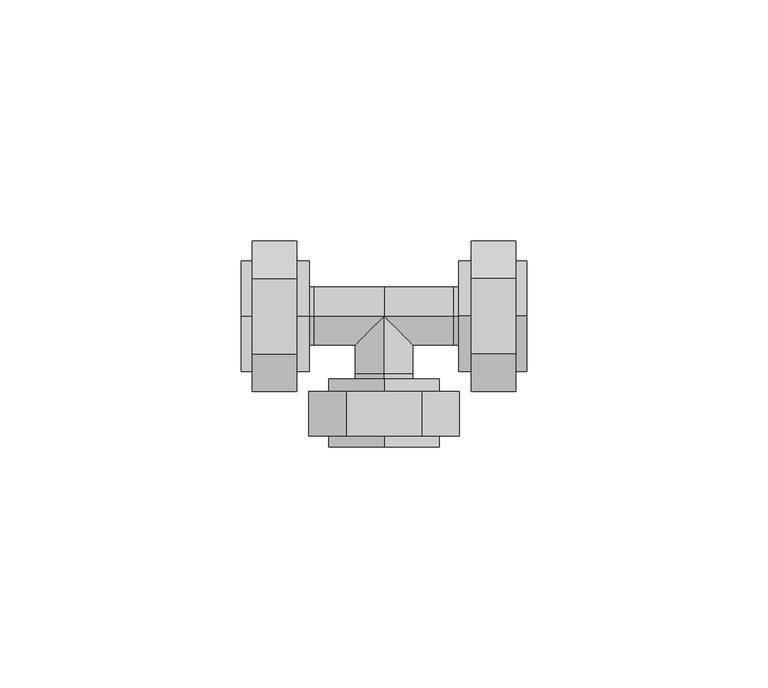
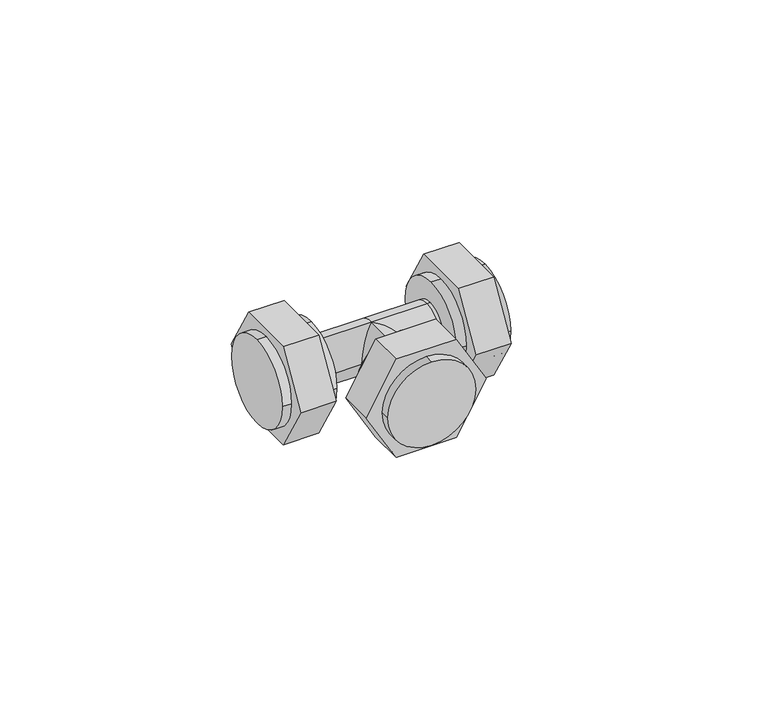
"""IFC4 building model written with IfcOpenShell, lengths in millimetres: pipe fitting geometry, HC-Kształtka-ParaForma-Tweetop-PERT-Trójnik : Tweetop."""

from ifc_helpers import new_model, si_unit, frame, origin, place, context, project, spatial, circle_curve, ellipse_curve, source, transform, mapped, element, save
from ifc_brep_helpers import plane_surface, cylinder_surface, advanced_brep


def pipe_fitting_dd8a0c7b(model_context):
    return source(origin(), model_context, "Body", "AdvancedBrep", [
        advanced_brep(
        [(29.6, 0.0, -11.45), (29.6, -11.45, 0.0), (27.3, -11.45, 0.0), (27.3, 0.0, -11.45), (15.5, -11.45, 0.0), (15.5, 0.0, -11.45), (18.1, 0.0, -11.45), (18.1, -11.45, 0.0), (15.5, 0.0, 11.45), (15.5, 11.45, 0.0), (18.1, 7.7942286, -13.5), (18.1, -7.7942286, -13.5), (18.1, -15.5884573, 0.0), (18.1, -7.7942286, 13.5), (18.1, 7.7942286, 13.5), (18.1, 15.5884573, 0.0), (18.1, 0.0, 11.45), (18.1, 11.45, 0.0), (27.3, 7.7942286, -13.5), (27.3, 15.5884573, 0.0), (27.3, 7.7942286, 13.5), (27.3, -7.7942286, 13.5), (27.3, -15.5884573, 0.0), (27.3, -7.7942286, -13.5), (27.3, 0.0, 11.45), (27.3, 11.45, 0.0), (29.6, 0.0, 11.45), (29.6, 11.45, 0.0)],
        [
            (0, 1, circle_curve(frame((29.6, 0.0, 0.0), z_axis=(-1.0, 0.0, 0.0), x_axis=(0.0, 1.0000000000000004, 0.0)), 11.45)),
            (1, 2),
            (2, 3, circle_curve(frame((27.3, 0.0, 0.0), z_axis=(1.0, 0.0, 0.0), x_axis=(0.0, 1.0000000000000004, 0.0)), 11.45)),
            (3, 0),
            (4, 5, circle_curve(frame((15.5, 0.0, 0.0), z_axis=(1.0, 0.0, 0.0), x_axis=(0.0, 1.0000000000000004, 0.0)), 11.45)),
            (5, 6),
            (6, 7, circle_curve(frame((18.1, 0.0, 0.0), z_axis=(-1.0, 0.0, 0.0), x_axis=(0.0, 1.0000000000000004, 0.0)), 11.45)),
            (7, 4),
            (8, 9, circle_curve(frame((15.5, 0.0, 0.0), z_axis=(-1.0, 0.0, 0.0), x_axis=(0.0, 1.0000000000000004, 0.0)), 11.45)),
            (9, 5, circle_curve(frame((15.5, 0.0, 0.0), z_axis=(-1.0, 0.0, 0.0), x_axis=(0.0, 1.0000000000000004, 0.0)), 11.45)),
            (4, 8, circle_curve(frame((15.5, 0.0, 0.0), z_axis=(-1.0, 0.0, 0.0), x_axis=(0.0, 1.0000000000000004, 0.0)), 11.45)),
            (10, 11),
            (11, 12),
            (12, 13),
            (13, 14),
            (14, 15),
            (15, 10),
            (16, 7, circle_curve(frame((18.1, 0.0, 0.0), z_axis=(1.0, 0.0, 0.0), x_axis=(0.0, 1.0000000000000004, 0.0)), 11.45)),
            (6, 17, circle_curve(frame((18.1, 0.0, 0.0), z_axis=(1.0, 0.0, 0.0), x_axis=(0.0, 1.0000000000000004, 0.0)), 11.45)),
            (17, 16, circle_curve(frame((18.1, 0.0, 0.0), z_axis=(1.0, 0.0, 0.0), x_axis=(0.0, 1.0000000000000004, 0.0)), 11.45)),
            (18, 19),
            (19, 20),
            (20, 21),
            (21, 22),
            (22, 23),
            (23, 18),
            (2, 24, circle_curve(frame((27.3, 0.0, 0.0), z_axis=(-1.0, 0.0, 0.0), x_axis=(0.0, 1.0000000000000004, 0.0)), 11.45)),
            (24, 25, circle_curve(frame((27.3, 0.0, 0.0), z_axis=(-1.0, 0.0, 0.0), x_axis=(0.0, 1.0000000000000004, 0.0)), 11.45)),
            (25, 3, circle_curve(frame((27.3, 0.0, 0.0), z_axis=(-1.0, 0.0, 0.0), x_axis=(0.0, 1.0000000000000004, 0.0)), 11.45)),
            (10, 18),
            (23, 11),
            (22, 12),
            (21, 13),
            (20, 14),
            (19, 15),
            (16, 8),
            (1, 26, circle_curve(frame((29.6, 0.0, 0.0), z_axis=(-1.0, 0.0, 0.0), x_axis=(0.0, 1.0000000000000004, 0.0)), 11.45)),
            (26, 24),
            (27, 0, circle_curve(frame((29.6, 0.0, 0.0), z_axis=(-1.0, 0.0, 0.0), x_axis=(0.0, 1.0000000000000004, 0.0)), 11.45)),
            (25, 27),
            (9, 17),
            (26, 27, circle_curve(frame((29.6, 0.0, 0.0), z_axis=(-1.0, 0.0, 0.0), x_axis=(0.0, 1.0000000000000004, 0.0)), 11.45)),
        ],
        [
            cylinder_surface(frame((15.5, 0.0, 0.0), z_axis=(-1.0000000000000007, 0.0, 0.0), x_axis=(0.0, 1.0000000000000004, 0.0)), 11.45),
            plane_surface(frame((15.5, 0.0, 0.0), z_axis=(-1.0, 0.0, 0.0), x_axis=(0.0, 0.0, 1.0))),
            plane_surface(frame((18.1, 0.0, 0.0), z_axis=(-1.0, 0.0, 0.0), x_axis=(0.0, 0.0, 1.0))),
            plane_surface(frame((27.3, 0.0, 0.0), z_axis=(1.0, 0.0, 0.0), x_axis=(0.0, 0.0, 1.0))),
            plane_surface(frame((18.1, 7.7942286, -13.5), z_axis=(0.0, 0.0, -1.0), x_axis=(1.0, 0.0, 0.0))),
            plane_surface(frame((18.1, -7.7942286, -13.5), z_axis=(0.0, -0.866025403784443, -0.4999999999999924), x_axis=(1.0, 0.0, 0.0))),
            plane_surface(frame((18.1, -15.5884573, 0.0), z_axis=(0.0, -0.8660254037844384, 0.5000000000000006), x_axis=(1.0, 0.0, 0.0))),
            plane_surface(frame((18.1, -7.7942286, 13.5), z_axis=(0.0, 0.0, 1.0), x_axis=(1.0, 0.0, 0.0))),
            plane_surface(frame((18.1, 7.7942286, 13.5), z_axis=(0.0, 0.8660254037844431, 0.4999999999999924), x_axis=(1.0, 0.0, 0.0))),
            plane_surface(frame((18.1, 15.5884573, 0.0), z_axis=(0.0, 0.866025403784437, -0.5000000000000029), x_axis=(1.0, 0.0, 0.0))),
            plane_surface(frame((29.6, 0.0, 0.0), z_axis=(1.0, 0.0, 0.0), x_axis=(0.0, 0.0, 1.0))),
        ],
        [
            (0, [[1, 2, 3, 4]]),
            (0, [[5, 6, 7, 8]]),
            (1, [[9, 10, -5, 11]]),
            (2, [[12, 13, 14, 15, 16, 17], [18, -7, 19, 20]]),
            (3, [[21, 22, 23, 24, 25, 26], [27, 28, 29, -3]]),
            (4, [[-12, 30, -26, 31]]),
            (5, [[-13, -31, -25, 32]]),
            (6, [[-14, -32, -24, 33]]),
            (7, [[-15, -33, -23, 34]]),
            (8, [[-16, -34, -22, 35]]),
            (9, [[-17, -35, -21, -30]]),
            (0, [[-11, -8, -18, 36]]),
            (0, [[37, 38, -27, -2]]),
            (0, [[39, -4, -29, 40]]),
            (0, [[-10, 41, -19, -6]]),
            (0, [[42, -40, -28, -38]]),
            (0, [[-9, -36, -20, -41]]),
            (10, [[-37, -1, -39, -42]]),
        ],
    ),
        advanced_brep(
        [(0.0, -27.1, -11.45), (-11.45, -27.1, 0.0), (-11.45, -24.8, 0.0), (0.0, -24.8, -11.45), (-11.45, -13.0, 0.0), (0.0, -13.0, -11.45), (0.0, -15.6, -11.45), (-11.45, -15.6, 0.0), (0.0, -13.0, 11.45), (11.45, -13.0, 0.0), (7.7942286, -15.6, -13.5), (-7.7942286, -15.6, -13.5), (-15.5884573, -15.6, 0.0), (-7.7942286, -15.6, 13.5), (7.7942286, -15.6, 13.5), (15.5884573, -15.6, 0.0), (0.0, -15.6, 11.45), (11.45, -15.6, 0.0), (7.7942286, -24.8, -13.5), (15.5884573, -24.8, 0.0), (7.7942286, -24.8, 13.5), (-7.7942286, -24.8, 13.5), (-15.5884573, -24.8, 0.0), (-7.7942286, -24.8, -13.5), (0.0, -24.8, 11.45), (11.45, -24.8, 0.0), (0.0, -27.1, 11.45), (11.45, -27.1, 0.0)],
        [
            (0, 1, circle_curve(frame((0.0, -27.1, 0.0), z_axis=(0.0, 1.0, 0.0), x_axis=(1.0000000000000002, 0.0, 0.0)), 11.45)),
            (1, 2),
            (2, 3, circle_curve(frame((0.0, -24.8, 0.0), z_axis=(0.0, -1.0, 0.0), x_axis=(1.0000000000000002, 0.0, 0.0)), 11.45)),
            (3, 0),
            (4, 5, circle_curve(frame((0.0, -13.0, 0.0), z_axis=(0.0, -1.0, 0.0), x_axis=(1.0000000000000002, 0.0, 0.0)), 11.45)),
            (5, 6),
            (6, 7, circle_curve(frame((0.0, -15.6, 0.0), z_axis=(0.0, 1.0, 0.0), x_axis=(1.0000000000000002, 0.0, 0.0)), 11.45)),
            (7, 4),
            (8, 9, circle_curve(frame((0.0, -13.0, 0.0), z_axis=(0.0, 1.0, 0.0), x_axis=(1.0000000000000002, 0.0, 0.0)), 11.45)),
            (9, 5, circle_curve(frame((0.0, -13.0, 0.0), z_axis=(0.0, 1.0, 0.0), x_axis=(1.0000000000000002, 0.0, 0.0)), 11.45)),
            (4, 8, circle_curve(frame((0.0, -13.0, 0.0), z_axis=(0.0, 1.0, 0.0), x_axis=(1.0000000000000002, 0.0, 0.0)), 11.45)),
            (10, 11),
            (11, 12),
            (12, 13),
            (13, 14),
            (14, 15),
            (15, 10),
            (16, 7, circle_curve(frame((0.0, -15.6, 0.0), z_axis=(0.0, -1.0, 0.0), x_axis=(1.0000000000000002, 0.0, 0.0)), 11.45)),
            (6, 17, circle_curve(frame((0.0, -15.6, 0.0), z_axis=(0.0, -1.0, 0.0), x_axis=(1.0000000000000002, 0.0, 0.0)), 11.45)),
            (17, 16, circle_curve(frame((0.0, -15.6, 0.0), z_axis=(0.0, -1.0, 0.0), x_axis=(1.0000000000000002, 0.0, 0.0)), 11.45)),
            (18, 19),
            (19, 20),
            (20, 21),
            (21, 22),
            (22, 23),
            (23, 18),
            (2, 24, circle_curve(frame((0.0, -24.8, 0.0), z_axis=(0.0, 1.0, 0.0), x_axis=(1.0000000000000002, 0.0, 0.0)), 11.45)),
            (24, 25, circle_curve(frame((0.0, -24.8, 0.0), z_axis=(0.0, 1.0, 0.0), x_axis=(1.0000000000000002, 0.0, 0.0)), 11.45)),
            (25, 3, circle_curve(frame((0.0, -24.8, 0.0), z_axis=(0.0, 1.0, 0.0), x_axis=(1.0000000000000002, 0.0, 0.0)), 11.45)),
            (10, 18),
            (23, 11),
            (22, 12),
            (21, 13),
            (20, 14),
            (19, 15),
            (16, 8),
            (1, 26, circle_curve(frame((0.0, -27.1, 0.0), z_axis=(0.0, 1.0, 0.0), x_axis=(1.0000000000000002, 0.0, 0.0)), 11.45)),
            (26, 24),
            (27, 0, circle_curve(frame((0.0, -27.1, 0.0), z_axis=(0.0, 1.0, 0.0), x_axis=(1.0000000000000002, 0.0, 0.0)), 11.45)),
            (25, 27),
            (9, 17),
            (26, 27, circle_curve(frame((0.0, -27.1, 0.0), z_axis=(0.0, 1.0, 0.0), x_axis=(1.0000000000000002, 0.0, 0.0)), 11.45)),
        ],
        [
            cylinder_surface(frame((0.0, -13.0, 0.0), z_axis=(0.0, 1.0000000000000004, 0.0), x_axis=(1.0000000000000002, 0.0, 0.0)), 11.45),
            plane_surface(frame((0.0, -13.0, 0.0), z_axis=(0.0, 1.0, 0.0), x_axis=(0.0, 0.0, 1.0))),
            plane_surface(frame((0.0, -15.6, 0.0), z_axis=(0.0, 1.0, 0.0), x_axis=(0.0, 0.0, 1.0))),
            plane_surface(frame((0.0, -24.8, 0.0), z_axis=(0.0, -1.0, 0.0), x_axis=(0.0, 0.0, 1.0))),
            plane_surface(frame((7.7942286, -15.6, -13.5), z_axis=(0.0, 0.0, -1.0), x_axis=(0.0, -1.0, 0.0))),
            plane_surface(frame((-7.7942286, -15.6, -13.5), z_axis=(-0.8660254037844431, 0.0, -0.49999999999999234), x_axis=(0.0, -1.0, 0.0))),
            plane_surface(frame((-15.5884573, -15.6, 0.0), z_axis=(-0.8660254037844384, 0.0, 0.5000000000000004), x_axis=(0.0, -1.0, 0.0))),
            plane_surface(frame((-7.7942286, -15.6, 13.5), z_axis=(0.0, 0.0, 1.0), x_axis=(0.0, -1.0, 0.0))),
            plane_surface(frame((7.7942286, -15.6, 13.5), z_axis=(0.8660254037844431, 0.0, 0.4999999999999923), x_axis=(0.0, -1.0, 0.0))),
            plane_surface(frame((15.5884573, -15.6, 0.0), z_axis=(0.866025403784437, 0.0, -0.5000000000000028), x_axis=(0.0, -1.0, 0.0))),
            plane_surface(frame((0.0, -27.1, 0.0), z_axis=(0.0, -1.0, 0.0), x_axis=(0.0, 0.0, 1.0))),
        ],
        [
            (0, [[1, 2, 3, 4]]),
            (0, [[5, 6, 7, 8]]),
            (1, [[9, 10, -5, 11]]),
            (2, [[12, 13, 14, 15, 16, 17], [18, -7, 19, 20]]),
            (3, [[21, 22, 23, 24, 25, 26], [27, 28, 29, -3]]),
            (4, [[-12, 30, -26, 31]]),
            (5, [[-13, -31, -25, 32]]),
            (6, [[-14, -32, -24, 33]]),
            (7, [[-15, -33, -23, 34]]),
            (8, [[-16, -34, -22, 35]]),
            (9, [[-17, -35, -21, -30]]),
            (0, [[-11, -8, -18, 36]]),
            (0, [[37, 38, -27, -2]]),
            (0, [[39, -4, -29, 40]]),
            (0, [[-10, 41, -19, -6]]),
            (0, [[42, -40, -28, -38]]),
            (0, [[-9, -36, -20, -41]]),
            (10, [[-37, -1, -39, -42]]),
        ],
    ),
        advanced_brep(
        [(-29.6, 0.0, -11.45), (-29.6, 11.45, 0.0), (-27.3, 11.45, 0.0), (-27.3, 0.0, -11.45), (-15.5, 11.45, 0.0), (-15.5, 0.0, -11.45), (-18.1, 0.0, -11.45), (-18.1, 11.45, 0.0), (-15.5, 0.0, 11.45), (-15.5, -11.45, 0.0), (-18.1, -7.7942286, -13.5), (-18.1, 7.7942286, -13.5), (-18.1, 15.5884573, 0.0), (-18.1, 7.7942286, 13.5), (-18.1, -7.7942286, 13.5), (-18.1, -15.5884573, 0.0), (-18.1, 0.0, 11.45), (-18.1, -11.45, 0.0), (-27.3, -7.7942286, -13.5), (-27.3, -15.5884573, 0.0), (-27.3, -7.7942286, 13.5), (-27.3, 7.7942286, 13.5), (-27.3, 15.5884573, 0.0), (-27.3, 7.7942286, -13.5), (-27.3, 0.0, 11.45), (-27.3, -11.45, 0.0), (-29.6, 0.0, 11.45), (-29.6, -11.45, 0.0)],
        [
            (0, 1, circle_curve(frame((-29.6, 0.0, 0.0), z_axis=(1.0, 0.0, 0.0), x_axis=(0.0, -1.0, 0.0)), 11.45)),
            (1, 2),
            (2, 3, circle_curve(frame((-27.3, 0.0, 0.0), z_axis=(-1.0, 0.0, 0.0), x_axis=(0.0, -1.0, 0.0)), 11.45)),
            (3, 0),
            (4, 5, circle_curve(frame((-15.5, 0.0, 0.0), z_axis=(-1.0, 0.0, 0.0), x_axis=(0.0, -1.0, 0.0)), 11.45)),
            (5, 6),
            (6, 7, circle_curve(frame((-18.1, 0.0, 0.0), z_axis=(1.0, 0.0, 0.0), x_axis=(0.0, -1.0, 0.0)), 11.45)),
            (7, 4),
            (8, 9, circle_curve(frame((-15.5, 0.0, 0.0), z_axis=(1.0, 0.0, 0.0), x_axis=(0.0, -1.0, 0.0)), 11.45)),
            (9, 5, circle_curve(frame((-15.5, 0.0, 0.0), z_axis=(1.0, 0.0, 0.0), x_axis=(0.0, -1.0, 0.0)), 11.45)),
            (4, 8, circle_curve(frame((-15.5, 0.0, 0.0), z_axis=(1.0, 0.0, 0.0), x_axis=(0.0, -1.0, 0.0)), 11.45)),
            (10, 11),
            (11, 12),
            (12, 13),
            (13, 14),
            (14, 15),
            (15, 10),
            (16, 7, circle_curve(frame((-18.1, 0.0, 0.0), z_axis=(-1.0, 0.0, 0.0), x_axis=(0.0, -1.0, 0.0)), 11.45)),
            (6, 17, circle_curve(frame((-18.1, 0.0, 0.0), z_axis=(-1.0, 0.0, 0.0), x_axis=(0.0, -1.0, 0.0)), 11.45)),
            (17, 16, circle_curve(frame((-18.1, 0.0, 0.0), z_axis=(-1.0, 0.0, 0.0), x_axis=(0.0, -1.0, 0.0)), 11.45)),
            (18, 19),
            (19, 20),
            (20, 21),
            (21, 22),
            (22, 23),
            (23, 18),
            (2, 24, circle_curve(frame((-27.3, 0.0, 0.0), z_axis=(1.0, 0.0, 0.0), x_axis=(0.0, -1.0, 0.0)), 11.45)),
            (24, 25, circle_curve(frame((-27.3, 0.0, 0.0), z_axis=(1.0, 0.0, 0.0), x_axis=(0.0, -1.0, 0.0)), 11.45)),
            (25, 3, circle_curve(frame((-27.3, 0.0, 0.0), z_axis=(1.0, 0.0, 0.0), x_axis=(0.0, -1.0, 0.0)), 11.45)),
            (10, 18),
            (23, 11),
            (22, 12),
            (21, 13),
            (20, 14),
            (19, 15),
            (16, 8),
            (1, 26, circle_curve(frame((-29.6, 0.0, 0.0), z_axis=(1.0, 0.0, 0.0), x_axis=(0.0, -1.0, 0.0)), 11.45)),
            (26, 24),
            (27, 0, circle_curve(frame((-29.6, 0.0, 0.0), z_axis=(1.0, 0.0, 0.0), x_axis=(0.0, -1.0, 0.0)), 11.45)),
            (25, 27),
            (9, 17),
            (26, 27, circle_curve(frame((-29.6, 0.0, 0.0), z_axis=(1.0, 0.0, 0.0), x_axis=(0.0, -1.0, 0.0)), 11.45)),
        ],
        [
            cylinder_surface(frame((-15.5, 0.0, 0.0), z_axis=(1.0, 0.0, 0.0), x_axis=(0.0, -1.0, 0.0)), 11.45),
            plane_surface(frame((-15.5, 0.0, 0.0), z_axis=(1.0, 0.0, 0.0), x_axis=(0.0, 0.0, 1.0))),
            plane_surface(frame((-18.1, 0.0, 0.0), z_axis=(1.0, 0.0, 0.0), x_axis=(0.0, 0.0, 1.0))),
            plane_surface(frame((-27.3, 0.0, 0.0), z_axis=(-1.0, 0.0, 0.0), x_axis=(0.0, 0.0, 1.0))),
            plane_surface(frame((-18.1, -7.7942286, -13.5), z_axis=(0.0, 0.0, -1.0), x_axis=(-1.0, 0.0, 0.0))),
            plane_surface(frame((-18.1, 7.7942286, -13.5), z_axis=(0.0, 0.8660254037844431, -0.4999999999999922), x_axis=(-1.0, 0.0, 0.0))),
            plane_surface(frame((-18.1, 15.5884573, 0.0), z_axis=(0.0, 0.8660254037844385, 0.5000000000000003), x_axis=(-1.0, 0.0, 0.0))),
            plane_surface(frame((-18.1, 7.7942286, 13.5), z_axis=(0.0, 0.0, 1.0), x_axis=(-1.0, 0.0, 0.0))),
            plane_surface(frame((-18.1, -7.7942286, 13.5), z_axis=(0.0, -0.8660254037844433, 0.4999999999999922), x_axis=(-1.0, 0.0, 0.0))),
            plane_surface(frame((-18.1, -15.5884573, 0.0), z_axis=(0.0, -0.8660254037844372, -0.5000000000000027), x_axis=(-1.0, 0.0, 0.0))),
            plane_surface(frame((-29.6, 0.0, 0.0), z_axis=(-1.0, 0.0, 0.0), x_axis=(0.0, 0.0, 1.0))),
        ],
        [
            (0, [[1, 2, 3, 4]]),
            (0, [[5, 6, 7, 8]]),
            (1, [[9, 10, -5, 11]]),
            (2, [[12, 13, 14, 15, 16, 17], [18, -7, 19, 20]]),
            (3, [[21, 22, 23, 24, 25, 26], [27, 28, 29, -3]]),
            (4, [[-12, 30, -26, 31]]),
            (5, [[-13, -31, -25, 32]]),
            (6, [[-14, -32, -24, 33]]),
            (7, [[-15, -33, -23, 34]]),
            (8, [[-16, -34, -22, 35]]),
            (9, [[-17, -35, -21, -30]]),
            (0, [[-11, -8, -18, 36]]),
            (0, [[37, 38, -27, -2]]),
            (0, [[39, -4, -29, 40]]),
            (0, [[-10, 41, -19, -6]]),
            (0, [[42, -40, -28, -38]]),
            (0, [[-9, -36, -20, -41]]),
            (10, [[-37, -1, -39, -42]]),
        ],
    ),
        advanced_brep(
        [(-15.5, 0.0, 6.0), (-15.5, 6.0, 0.0), (-15.5, 0.0, -6.0), (-15.5, -6.0, 0.0), (15.5, 0.0, 6.0), (15.5, -6.0, 0.0), (15.5, 0.0, -6.0), (15.5, 6.0, 0.0), (0.0, -13.0, 6.0), (-6.0, -13.0, 0.0), (0.0, -13.0, -6.0), (6.0, -13.0, 0.0), (-14.5, 0.0, 6.0), (0.0, 0.0, 6.0), (0.0, 6.0, 0.0), (-14.5, 6.0, 0.0), (0.0, 0.0, -6.0), (-14.5, 0.0, -6.0), (-6.0, -6.0, 0.0), (-14.5, -6.0, 0.0), (14.5, 6.0, 0.0), (14.5, 0.0, 6.0), (14.5, 0.0, -6.0), (14.5, -6.0, 0.0), (6.0, -6.0, 0.0), (6.0, -12.0, 0.0), (0.0, -12.0, 6.0), (0.0, -12.0, -6.0), (-6.0, -12.0, 0.0)],
        [
            (0, 1, circle_curve(frame((-15.5, 0.0, 0.0), z_axis=(-1.0, 0.0, 0.0), x_axis=(0.0, 1.0, 0.0)), 6.0)),
            (1, 2, circle_curve(frame((-15.5, 0.0, 0.0), z_axis=(-1.0, 0.0, 0.0), x_axis=(0.0, 1.0, 0.0)), 6.0)),
            (2, 3, circle_curve(frame((-15.5, 0.0, 0.0), z_axis=(-1.0, 0.0, 0.0), x_axis=(0.0, 1.0, 0.0)), 6.0)),
            (3, 0, circle_curve(frame((-15.5, 0.0, 0.0), z_axis=(-1.0, 0.0, 0.0), x_axis=(0.0, 1.0, 0.0)), 6.0)),
            (4, 5, circle_curve(frame((15.5, 0.0, 0.0), z_axis=(1.0, 0.0, 0.0), x_axis=(0.0, 1.0, 0.0)), 6.0)),
            (5, 6, circle_curve(frame((15.5, 0.0, 0.0), z_axis=(1.0, 0.0, 0.0), x_axis=(0.0, 1.0, 0.0)), 6.0)),
            (6, 7, circle_curve(frame((15.5, 0.0, 0.0), z_axis=(1.0, 0.0, 0.0), x_axis=(0.0, 1.0, 0.0)), 6.0)),
            (7, 4, circle_curve(frame((15.5, 0.0, 0.0), z_axis=(1.0, 0.0, 0.0), x_axis=(0.0, 1.0, 0.0)), 6.0)),
            (8, 9, circle_curve(frame((0.0, -13.0, 0.0), z_axis=(0.0, -1.0, 0.0), x_axis=(1.0, 0.0, 0.0)), 6.0)),
            (9, 10, circle_curve(frame((0.0, -13.0, 0.0), z_axis=(0.0, -1.0, 0.0), x_axis=(1.0, 0.0, 0.0)), 6.0)),
            (10, 11, circle_curve(frame((0.0, -13.0, 0.0), z_axis=(0.0, -1.0, 0.0), x_axis=(1.0, 0.0, 0.0)), 6.0)),
            (11, 8, circle_curve(frame((0.0, -13.0, 0.0), z_axis=(0.0, -1.0, 0.0), x_axis=(1.0, 0.0, 0.0)), 6.0)),
            (12, 13),
            (13, 14, circle_curve(frame((0.0, 0.0, 0.0), z_axis=(-1.0, 0.0, 0.0), x_axis=(0.0, 1.0, 0.0)), 6.0)),
            (14, 15),
            (15, 12, circle_curve(frame((-14.5, 0.0, 0.0), z_axis=(1.0, 0.0, 0.0), x_axis=(0.0, 1.0, 0.0)), 6.0)),
            (14, 16, circle_curve(frame((0.0, 0.0, 0.0), z_axis=(-1.0, 0.0, 0.0), x_axis=(0.0, 1.0, 0.0)), 6.0)),
            (16, 17),
            (17, 15, circle_curve(frame((-14.5, 0.0, 0.0), z_axis=(1.0, 0.0, 0.0), x_axis=(0.0, 1.0, 0.0)), 6.0)),
            (16, 18, ellipse_curve(frame((0.0, 0.0, 0.0), z_axis=(-0.7071067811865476, 0.7071067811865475, 0.0), x_axis=(-0.7071067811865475, -0.7071067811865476, 0.0)), 8.4852814, 6.0)),
            (18, 19),
            (19, 17, circle_curve(frame((-14.5, 0.0, 0.0), z_axis=(1.0, 0.0, 0.0), x_axis=(0.0, 1.0, 0.0)), 6.0)),
            (12, 19, circle_curve(frame((-14.5, 0.0, 0.0), z_axis=(1.0, 0.0, 0.0), x_axis=(0.0, 1.0, 0.0)), 6.0)),
            (18, 13, ellipse_curve(frame((0.0, 0.0, 0.0), z_axis=(-0.7071067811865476, 0.7071067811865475, 0.0), x_axis=(-0.7071067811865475, -0.7071067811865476, 0.0)), 8.4852814, 6.0)),
            (0, 12),
            (15, 1),
            (17, 2),
            (19, 3),
            (7, 20),
            (20, 21, circle_curve(frame((14.5, 0.0, 0.0), z_axis=(1.0, 0.0, 0.0), x_axis=(0.0, 1.0, 0.0)), 6.0)),
            (21, 4),
            (6, 22),
            (22, 20, circle_curve(frame((14.5, 0.0, 0.0), z_axis=(1.0, 0.0, 0.0), x_axis=(0.0, 1.0, 0.0)), 6.0)),
            (5, 23),
            (23, 22, circle_curve(frame((14.5, 0.0, 0.0), z_axis=(1.0, 0.0, 0.0), x_axis=(0.0, 1.0, 0.0)), 6.0)),
            (21, 23, circle_curve(frame((14.5, 0.0, 0.0), z_axis=(1.0, 0.0, 0.0), x_axis=(0.0, 1.0, 0.0)), 6.0)),
            (13, 21),
            (20, 14),
            (22, 16),
            (23, 24),
            (24, 16, ellipse_curve(frame((0.0, 0.0, 0.0), z_axis=(0.7071067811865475, 0.7071067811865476, 0.0), x_axis=(-0.7071067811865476, 0.7071067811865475, 0.0)), 8.4852814, 6.0)),
            (13, 24, ellipse_curve(frame((0.0, 0.0, 0.0), z_axis=(0.7071067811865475, 0.7071067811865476, 0.0), x_axis=(-0.7071067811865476, 0.7071067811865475, 0.0)), 8.4852814, 6.0)),
            (11, 25),
            (25, 26, circle_curve(frame((0.0, -12.0, 0.0), z_axis=(0.0, -1.0, 0.0), x_axis=(1.0, 0.0, 0.0)), 6.0)),
            (26, 8),
            (10, 27),
            (27, 25, circle_curve(frame((0.0, -12.0, 0.0), z_axis=(0.0, -1.0, 0.0), x_axis=(1.0, 0.0, 0.0)), 6.0)),
            (9, 28),
            (28, 27, circle_curve(frame((0.0, -12.0, 0.0), z_axis=(0.0, -1.0, 0.0), x_axis=(1.0, 0.0, 0.0)), 6.0)),
            (26, 28, circle_curve(frame((0.0, -12.0, 0.0), z_axis=(0.0, -1.0, 0.0), x_axis=(1.0, 0.0, 0.0)), 6.0)),
            (13, 26),
            (25, 24),
            (27, 16),
            (28, 18),
        ],
        [
            plane_surface(frame((-15.5, 0.0, 0.0), z_axis=(-1.0, 0.0, 0.0), x_axis=(0.0, 0.0, 1.0))),
            plane_surface(frame((15.5, 0.0, 0.0), z_axis=(1.0, 0.0, 0.0), x_axis=(0.0, 0.0, 1.0))),
            plane_surface(frame((0.0, -13.0, 0.0), z_axis=(0.0, -1.0, 0.0), x_axis=(0.0, 0.0, 1.0))),
            cylinder_surface(frame((-14.5, 0.0, 0.0), z_axis=(-1.0, 0.0, 0.0), x_axis=(0.0, 1.0, 0.0)), 6.0),
            cylinder_surface(frame((-15.5, 0.0, 0.0), z_axis=(-1.0, 0.0, 0.0), x_axis=(0.0, 1.0, 0.0)), 6.0),
            cylinder_surface(frame((14.5, 0.0, 0.0), z_axis=(-1.0, 0.0, 0.0), x_axis=(0.0, 1.0, 0.0)), 6.0),
            cylinder_surface(frame((0.0, 0.0, 0.0), z_axis=(-1.0, 0.0, 0.0), x_axis=(0.0, 1.0, 0.0)), 6.0),
            cylinder_surface(frame((0.0, -12.0, 0.0), z_axis=(0.0, 1.0, 0.0), x_axis=(1.0, 0.0, 0.0)), 6.0),
            cylinder_surface(frame((0.0, 0.0, 0.0), z_axis=(0.0, 1.0, 0.0), x_axis=(1.0, 0.0, 0.0)), 6.0),
        ],
        [
            (0, [[1, 2, 3, 4]]),
            (1, [[5, 6, 7, 8]]),
            (2, [[9, 10, 11, 12]]),
            (3, [[13, 14, 15, 16]]),
            (3, [[-15, 17, 18, 19]]),
            (3, [[-18, 20, 21, 22]]),
            (3, [[-13, 23, -21, 24]]),
            (4, [[-1, 25, -16, 26]]),
            (4, [[-2, -26, -19, 27]]),
            (4, [[-3, -27, -22, 28]]),
            (4, [[-4, -28, -23, -25]]),
            (5, [[-8, 29, 30, 31]]),
            (5, [[-7, 32, 33, -29]]),
            (5, [[-6, 34, 35, -32]]),
            (5, [[-5, -31, 36, -34]]),
            (6, [[37, -30, 38, -14]]),
            (6, [[-38, -33, 39, -17]]),
            (6, [[-39, -35, 40, 41]]),
            (6, [[-37, 42, -40, -36]]),
            (7, [[-12, 43, 44, 45]]),
            (7, [[-11, 46, 47, -43]]),
            (7, [[-10, 48, 49, -46]]),
            (7, [[-9, -45, 50, -48]]),
            (8, [[51, -44, 52, -42]]),
            (8, [[53, -41, -52, -47]]),
            (8, [[-53, -49, 54, -20]]),
            (8, [[-51, -24, -54, -50]]),
        ],
    ),
    ])


if __name__ == "__main__":
    model = new_model("IFC4")
    model_context = context("Model", 3, world=origin())
    ifc_project = project(units=[si_unit("LENGTHUNIT", "METRE", prefix="MILLI")], contexts=[model_context])
    site = spatial("IfcSite", under=ifc_project)
    building = spatial("IfcBuilding", under=site)
    placement = place(None, origin())
    pipe_fitting_shape = pipe_fitting_dd8a0c7b(model_context)
    element("IfcPipeFitting", 1, ObjectType="HC-Kształtka-ParaForma-Tweetop-PERT-Trójnik : Tweetop", at=placement, inside=building, context=model_context, shape_type="MappedRepresentation", body=[
        mapped(pipe_fitting_shape, transform((0.0, 0.0, 0.0), x_axis=(1.0, 0.0, 0.0), y_axis=(0.0, 1.0, 0.0), z_axis=(0.0, 0.0, 1.0))),
    ])
    save(model, "model.ifc")
